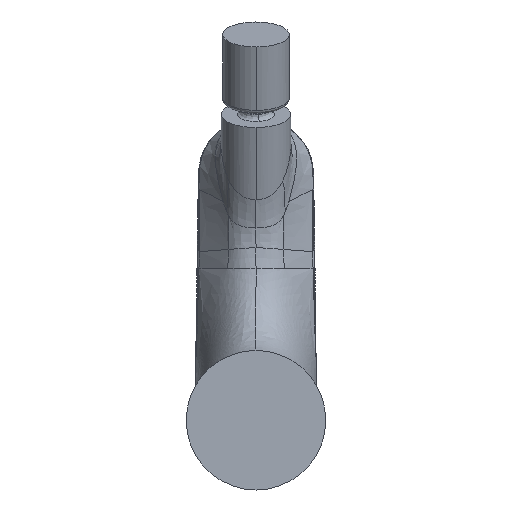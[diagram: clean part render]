
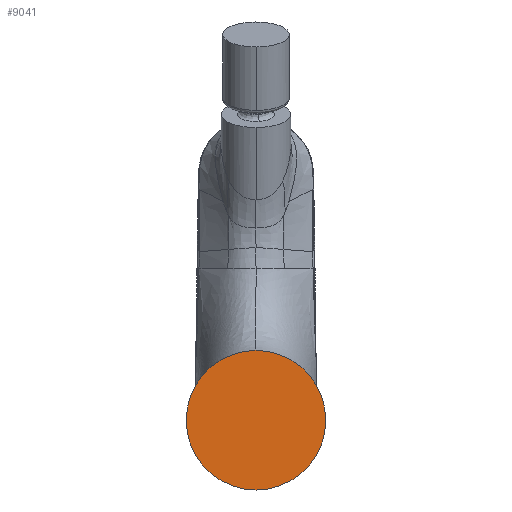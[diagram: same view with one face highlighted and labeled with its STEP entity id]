
A CAD part, front view. The second image highlights one B-rep face of the part: STEP entity #9041.
In plain terms, the highlighted planar face has unit normal (0, -1, 0).
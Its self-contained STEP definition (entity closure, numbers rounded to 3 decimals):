
#1743 = EDGE_CURVE ( 'NONE', #5188, #2450, #4312, .T. ) ;
#1863 = CARTESIAN_POINT ( 'NONE',  ( 0., 2.3, 0. ) ) ;
#2105 = AXIS2_PLACEMENT_3D ( 'NONE', #17932, #10445, #3013 ) ;
#2449 = AXIS2_PLACEMENT_3D ( 'NONE', #13687, #12218, #18213 ) ;
#2450 = VERTEX_POINT ( 'NONE', #7941 ) ;
#3013 = DIRECTION ( 'NONE',  ( 0., 0., 1. ) ) ;
#3138 = DIRECTION ( 'NONE',  ( 0., 1., 0. ) ) ;
#4210 = ORIENTED_EDGE ( 'NONE', *, *, #11057, .F. ) ;
#4312 = CIRCLE ( 'NONE', #9609, 22.989 ) ;
#4502 = CARTESIAN_POINT ( 'NONE',  ( 22.989, 2.3, 0. ) ) ;
#5188 = VERTEX_POINT ( 'NONE', #16631 ) ;
#5879 = ORIENTED_EDGE ( 'NONE', *, *, #7953, .F. ) ;
#5885 = CIRCLE ( 'NONE', #2449, 22.989 ) ;
#6372 = DIRECTION ( 'NONE',  ( 0., 0., 1. ) ) ;
#7841 = EDGE_LOOP ( 'NONE', ( #14845, #5879, #4210 ) ) ;
#7941 = CARTESIAN_POINT ( 'NONE',  ( 0., 2.3, 22.989 ) ) ;
#7953 = EDGE_CURVE ( 'NONE', #8566, #5188, #15281, .T. ) ;
#8566 = VERTEX_POINT ( 'NONE', #4502 ) ;
#9041 = ADVANCED_FACE ( 'NONE', ( #10352 ), #13408, .F. ) ;
#9609 = AXIS2_PLACEMENT_3D ( 'NONE', #1863, #13818, #6372 ) ;
#10352 = FACE_OUTER_BOUND ( 'NONE', #7841, .T. ) ;
#10445 = DIRECTION ( 'NONE',  ( 0., 1., 0. ) ) ;
#11057 = EDGE_CURVE ( 'NONE', #2450, #8566, #5885, .T. ) ;
#12218 = DIRECTION ( 'NONE',  ( 0., 1., 0. ) ) ;
#13408 = PLANE ( 'NONE',  #2105 ) ;
#13687 = CARTESIAN_POINT ( 'NONE',  ( 0., 2.3, 0. ) ) ;
#13815 = DIRECTION ( 'NONE',  ( 0., 0., 1. ) ) ;
#13818 = DIRECTION ( 'NONE',  ( 0., 1., 0. ) ) ;
#14845 = ORIENTED_EDGE ( 'NONE', *, *, #1743, .F. ) ;
#15281 = CIRCLE ( 'NONE', #16227, 22.989 ) ;
#16227 = AXIS2_PLACEMENT_3D ( 'NONE', #16580, #3138, #13815 ) ;
#16580 = CARTESIAN_POINT ( 'NONE',  ( 0., 2.3, 0. ) ) ;
#16631 = CARTESIAN_POINT ( 'NONE',  ( 0., 2.3, -22.989 ) ) ;
#17932 = CARTESIAN_POINT ( 'NONE',  ( 0., 2.3, 0. ) ) ;
#18213 = DIRECTION ( 'NONE',  ( 0., 0., 1. ) ) ;
